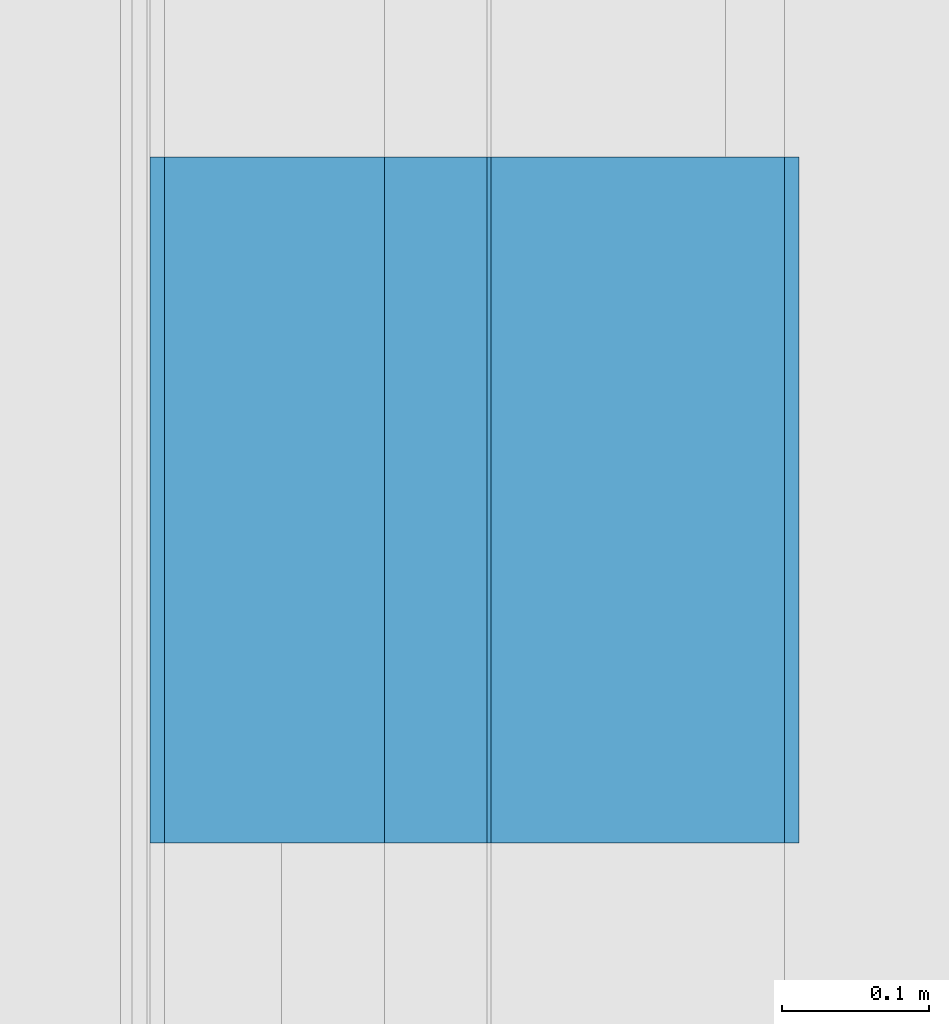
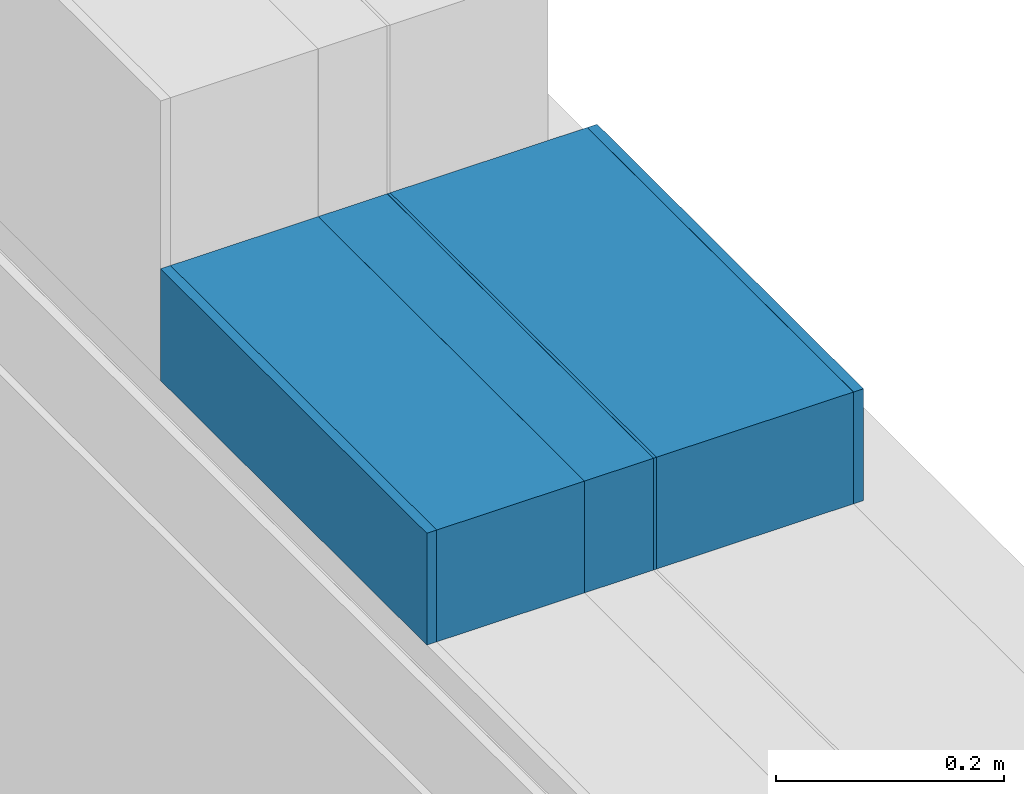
# One storey, part 14 of 17: 6 building element parts, 1 element without a shape of its own.
"""IFC2X3 building model written with IfcOpenShell, lengths in millimetres."""

from ifc_helpers import new_model, entity, si_unit, converted_unit, derived_unit, money_unit, direction, frame, origin_with_axes, place, context, subcontext, project, spatial, faceted_brep, material, type_object, element, aggregate, save


model = new_model("IFC2X3")

# Units and contexts
model_context = context("Model", 3, precision=0.01, world=origin_with_axes(), true_north=direction((0.0, 1.0)))
body_context = subcontext(model_context, "Body", "Model", "MODEL_VIEW")
ifc_project = project(units=[si_unit("LENGTHUNIT", "METRE", prefix="MILLI"), si_unit("AREAUNIT", "SQUARE_METRE"), si_unit("VOLUMEUNIT", "CUBIC_METRE"), converted_unit("PLANEANGLEUNIT", "DEGREE", entity("IfcPlaneAngleMeasure", 0.0174532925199), si_unit("PLANEANGLEUNIT", "RADIAN"), dimensions=[0, 0, 0, 0, 0, 0, 0]), money_unit("EUR"), converted_unit("TIMEUNIT", "Year", entity("IfcTimeMeasure", 31556926.0), si_unit("TIMEUNIT", "SECOND"), dimensions=[0, 0, 1, 0, 0, 0, 0]), si_unit("MASSUNIT", "GRAM", prefix="KILO"), si_unit("THERMODYNAMICTEMPERATUREUNIT", "DEGREE_CELSIUS"), si_unit("LUMINOUSINTENSITYUNIT", "LUMEN"), si_unit("ENERGYUNIT", "JOULE", prefix="MEGA"), derived_unit("THERMALCONDUCTANCEUNIT", [(si_unit("POWERUNIT", "WATT"), 1), (si_unit("LENGTHUNIT", "METRE"), -1), (si_unit("THERMODYNAMICTEMPERATUREUNIT", "KELVIN"), -1)]), derived_unit("SPECIFICHEATCAPACITYUNIT", [(si_unit("ENERGYUNIT", "JOULE"), 1), (si_unit("MASSUNIT", "GRAM", prefix="KILO"), -1), (si_unit("THERMODYNAMICTEMPERATUREUNIT", "KELVIN"), -1)]), derived_unit("MASSDENSITYUNIT", [(si_unit("MASSUNIT", "GRAM", prefix="KILO"), 1), (si_unit("VOLUMEUNIT", "CUBIC_METRE"), -1)])], contexts=[model_context])

# Site, building, storey
site_placement = place(None, origin_with_axes())
site = spatial("IfcSite", under=ifc_project, at=site_placement, Name="Kolde pst 67a", CompositionType="ELEMENT")
building_placement = place(site_placement, origin_with_axes())
building = spatial("IfcBuilding", under=site, at=building_placement, Name="Riigigümnaasium", CompositionType="ELEMENT")
storey_placement = place(building_placement, frame((0.0, 0.0, -1500.0), z_axis=(0.0, 0.0, 1.0), x_axis=(1.0, 0.0, 0.0)))
storey = spatial("IfcBuildingStorey", under=building, at=storey_placement, Name="Vundament", CompositionType="ELEMENT", Elevation=-1500.0)

# Wall, building element parts
wall_type = type_object("IfcWallType", Name="VS-RB-20/2_sokkel  443", PredefinedType="NOTDEFINED")
wall_placement = place(storey_placement, frame((40.0567843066, 59549.9979577, 1480.0), z_axis=(0.0, 0.0, 1.0), x_axis=(0.0, -1.0, 0.0)))
wall = element("IfcWall", 1, at=wall_placement, inside=storey, type_object=wall_type, Name="Sokkel")
ifc_material_1 = material(Name="_VIIMISTLUSKIHT - viimistlus vastavalt SA osale")
building_element_part_1_placement = place(wall_placement, origin_with_axes())
building_element_part_1 = element("IfcBuildingElementPart", 2, at=building_element_part_1_placement, material=ifc_material_1, Name="_VIIMISTLUSKIHT - viimistlus vastavalt SA osale", context=body_context, shape_type="Brep", body=[
    faceted_brep([(467.992599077, 210.0, 0.0), (467.992599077, 200.0, 0.0), (0.0, 200.0, 0.0), (0.0, 210.0, 0.0), (467.992599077, 210.0, 120.0), (467.992599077, 200.0, 120.0), (0.0, 200.0, 120.0), (0.0, 210.0, 120.0)], [[[0, 1, 2, 3]], [[0, 4, 5, 1]], [[1, 5, 6, 2]], [[3, 2, 6, 7]], [[4, 0, 3, 7]], [[5, 4, 7, 6]]]),
])
ifc_material_2 = material(Name="_KANDETARIND - monteeritav raudbetoon vastavalt EK osale")
building_element_part_2_placement = place(wall_placement, origin_with_axes())
building_element_part_2 = element("IfcBuildingElementPart", 3, at=building_element_part_2_placement, material=ifc_material_2, Name="_KANDETARIND - monteeritav raudbetoon vastavalt EK osale", context=body_context, shape_type="Brep", body=[
    faceted_brep([(467.992599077, 200.0, 0.0), (467.992599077, 0.0, 0.0), (0.0, 0.0, 0.0), (0.0, 200.0, 0.0), (467.992599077, 200.0, 120.0), (467.992599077, 0.0, 120.0), (0.0, 0.0, 120.0), (0.0, 200.0, 120.0)], [[[0, 1, 2, 3]], [[0, 4, 5, 1]], [[1, 5, 6, 2]], [[3, 2, 6, 7]], [[4, 0, 3, 7]], [[5, 4, 7, 6]]]),
])
ifc_material_3 = material(Name="_HÜDROISOLATSIOON - 3x SBS rullmaterjal vastavalt TL2 nõuetele, nakke tugevduseks betoonpind eelnevalt katta hüdroisolatsiooni bituumenvõõbaga")
building_element_part_3_placement = place(wall_placement, origin_with_axes())
building_element_part_3 = element("IfcBuildingElementPart", 4, at=building_element_part_3_placement, material=ifc_material_3, Name="_HÜDROISOLATSIOON - 3x SBS rullmaterjal vastavalt TL2 nõuetele, nakke tugevduseks betoonpind eelnevalt katta hüdroisolatsiooni bituumenvõõbaga", context=body_context, shape_type="Brep", body=[
    faceted_brep([(467.992599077, 0.0, 0.0), (467.992599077, -3.0, 0.0), (0.0, -3.0, 0.0), (0.0, 0.0, 0.0), (467.992599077, 0.0, 120.0), (467.992599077, -3.0, 120.0), (0.0, -3.0, 120.0), (0.0, 0.0, 120.0)], [[[0, 1, 2, 3]], [[0, 4, 5, 1]], [[1, 5, 6, 2]], [[3, 2, 6, 7]], [[4, 0, 3, 7]], [[5, 4, 7, 6]]]),
])
ifc_material_4 = material(Name="_SOOJUSTUS - ekstrudeeritud polüstüreenist plaadid XPS 250, survetugevus min 250kPa, soojuserijuhtivus λD<0,036 W/(mK), veeimavus alla 0,2%, näiteks XPS 250 foam SL või samaväärne")
building_element_part_4_placement = place(wall_placement, origin_with_axes())
building_element_part_4 = element("IfcBuildingElementPart", 5, at=building_element_part_4_placement, material=ifc_material_4, Name="_SOOJUSTUS - ekstrudeeritud polüstüreenist plaadid XPS 250, survetugevus min 250kPa, soojuserijuhtivus λD<0,036 W/(mK), veeimavus alla 0,2%, näiteks XPS 250 foam SL või samaväärne", context=body_context, shape_type="Brep", body=[
    faceted_brep([(467.992599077, -3.0, 0.0), (467.992599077, -73.0, 0.0), (0.0, -73.0, 0.0), (0.0, -3.0, 0.0), (467.992599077, -3.0, 120.0), (467.992599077, -73.0, 120.0), (0.0, -73.0, 120.0), (0.0, -3.0, 120.0)], [[[0, 1, 2, 3]], [[0, 4, 5, 1]], [[1, 5, 6, 2]], [[3, 2, 6, 7]], [[4, 0, 3, 7]], [[5, 4, 7, 6]]]),
])
ifc_material_5 = material(Name="_SOOJUSTUS - vahtpolüstüreenplaadid EPS 120 Perimeeter, survetugevus min 120kPa, veeimavus <2%, soojuserijuhtivus λD<0,036 W/(mK)")
building_element_part_5_placement = place(wall_placement, origin_with_axes())
building_element_part_5 = element("IfcBuildingElementPart", 6, at=building_element_part_5_placement, material=ifc_material_5, Name="_SOOJUSTUS - vahtpolüstüreenplaadid EPS 120 Perimeeter, survetugevus min 120kPa, veeimavus <2%, soojuserijuhtivus λD<0,036 W/(mK)", context=body_context, shape_type="Brep", body=[
    faceted_brep([(467.992599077, -73.0, 0.0), (467.992599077, -223.0, 0.0), (0.0, -223.0, 0.0), (0.0, -73.0, 0.0), (467.992599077, -73.0, 120.0), (467.992599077, -223.0, 120.0), (0.0, -223.0, 120.0), (0.0, -73.0, 120.0)], [[[0, 1, 2, 3]], [[0, 4, 5, 1]], [[1, 5, 6, 2]], [[3, 2, 6, 7]], [[4, 0, 3, 7]], [[5, 4, 7, 6]]]),
])
ifc_material_6 = material(Name="_TUULETÕKE - sokli krohv, silikoonvaikkrohv Weber.pas 481 AquaBalance 1mm \"scratch\" viimistlus, toon helehall CL444 (S 3502-Y) * 35, SILS süsteem, või samaväärne")
building_element_part_6_placement = place(wall_placement, origin_with_axes())
building_element_part_6 = element("IfcBuildingElementPart", 7, at=building_element_part_6_placement, material=ifc_material_6, Name="_TUULETÕKE - sokli krohv, silikoonvaikkrohv Weber.pas 481 AquaBalance 1mm \"scratch\" viimistlus, toon helehall CL444 (S 3502-Y) * 35, SILS süsteem, või samaväärne", context=body_context, shape_type="Brep", body=[
    faceted_brep([(467.992599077, -223.0, 0.0), (467.992599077, -233.0, 0.0), (0.0, -233.0, 0.0), (0.0, -223.0, 0.0), (467.992599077, -223.0, 120.0), (467.992599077, -233.0, 120.0), (0.0, -233.0, 120.0), (0.0, -223.0, 120.0)], [[[0, 1, 2, 3]], [[0, 4, 5, 1]], [[1, 5, 6, 2]], [[3, 2, 6, 7]], [[4, 0, 3, 7]], [[5, 4, 7, 6]]]),
])
aggregate(wall, [building_element_part_1, building_element_part_2, building_element_part_3, building_element_part_4, building_element_part_5, building_element_part_6])

save(model, "model.ifc")
